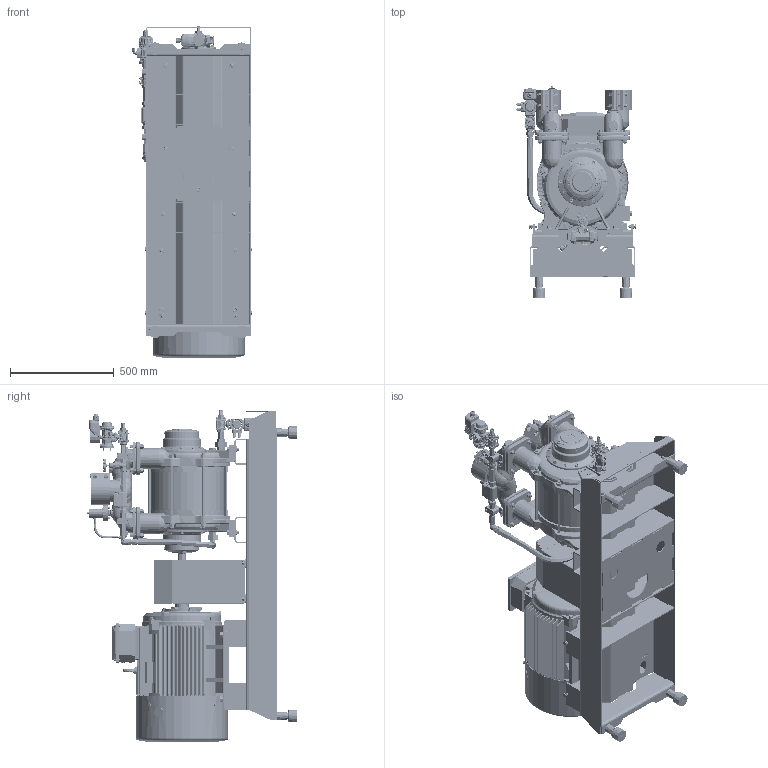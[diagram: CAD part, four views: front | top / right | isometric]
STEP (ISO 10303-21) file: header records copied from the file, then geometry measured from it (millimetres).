
FILE_DESCRIPTION(/* description */ (''),/* implementation_level */ '2;1');
FILE_NAME(/* name */ '1700149.stp',/* time_stamp */ '2025-05-02T10:12:39+02:00',/* author */ ('JJ'),/* organization */ (''),/* preprocessor_version */ 'ST-DEVELOPER v20',/* originating_system */ 'Autodesk Inventor 2025',/* authorisation */ '');
FILE_SCHEMA (('AUTOMOTIVE_DESIGN { 1 0 10303 214 3 1 1 }'));
Products named in the file (1): 1700149
Bounding box: 579.35 x 1019 x 1603.73 mm (x, y, z)
Volume: 97530104.3 mm3; surface area: 13725928.5 mm2
Topology: 235 solids, 235 shells, 26749 faces, 69153 edges, 43937 vertices
Faces by surface type: plane 12783, cylinder 5452, bspline 4419, cone 2235, torus 1651, sphere 209
Full cylindrical faces by diameter (mm): 0.8 x1, 0.847 x2, 0.857 x2, 1.656 x4, 1.7 x4, 1.8 x4, 2 x20, 2.2 x1, 2.5 x6, 3 x4, 3.2 x2, 3.3 x8, 3.6 x4, 4 x4, 4.134 x8, 4.2 x16, 4.3 x8, 4.45 x3, 4.567 x8, 4.917 x15, 4.92 x4, 5 x12, 5.3 x8, 5.6 x16, 6 x46, 6.1 x1, 6.4 x9, 6.5 x12, 6.647 x2, 6.7 x16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
Entity records: 1262495 total; most frequent: CARTESIAN_POINT 612687, ORIENTED_EDGE 137838, DIRECTION 116348, EDGE_CURVE 68919, VERTEX_POINT 43953, AXIS2_PLACEMENT_3D 39855, LINE 36638, VECTOR 36638
